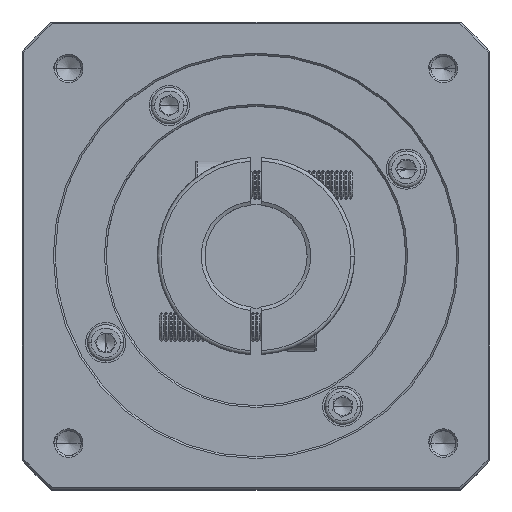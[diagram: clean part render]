
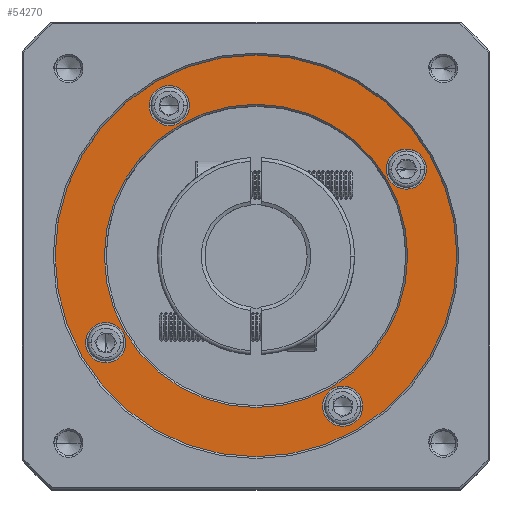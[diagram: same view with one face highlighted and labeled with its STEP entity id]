
A CAD part, top view. The second image highlights one B-rep face of the part: STEP entity #54270.
In plain terms, the highlighted planar face has unit normal (0, 0, 1).
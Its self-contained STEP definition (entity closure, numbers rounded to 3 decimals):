
#5131 = AXIS2_PLACEMENT_3D ( 'NONE', #12617, #78218, #22005 ) ;
#8604 = ORIENTED_EDGE ( 'NONE', *, *, #43318, .T. ) ;
#9205 = CARTESIAN_POINT ( 'NONE',  ( 32.231, 177.313, 47.529 ) ) ;
#11257 = EDGE_LOOP ( 'NONE', ( #78065, #8604 ) ) ;
#12617 = CARTESIAN_POINT ( 'NONE',  ( 55.981, 136.177, 47.529 ) ) ;
#13023 = EDGE_CURVE ( 'NONE', #31280, #51658, #117565, .T. ) ;
#13725 = ORIENTED_EDGE ( 'NONE', *, *, #112190, .T. ) ;
#13969 = AXIS2_PLACEMENT_3D ( 'NONE', #19710, #85333, #29157 ) ;
#16248 = VERTEX_POINT ( 'NONE', #60955 ) ;
#18590 = DIRECTION ( 'NONE',  ( 1., 0., 0. ) ) ;
#18922 = DIRECTION ( 'NONE',  ( 0., 0., -1. ) ) ;
#19510 = EDGE_CURVE ( 'NONE', #83587, #117281, #68773, .T. ) ;
#19710 = CARTESIAN_POINT ( 'NONE',  ( 97.118, 159.927, 47.529 ) ) ;
#20159 = AXIS2_PLACEMENT_3D ( 'NONE', #81480, #25269, #90901 ) ;
#20262 = CARTESIAN_POINT ( 'NONE',  ( 20.345, 112.427, 47.529 ) ) ;
#20818 = CARTESIAN_POINT ( 'NONE',  ( 97.118, 159.927, 47.529 ) ) ;
#20956 = CARTESIAN_POINT ( 'NONE',  ( 55.981, 136.177, 47.529 ) ) ;
#22005 = DIRECTION ( 'NONE',  ( 1., 0., 0. ) ) ;
#22145 = CIRCLE ( 'NONE', #72399, 5.5 ) ;
#22332 = CARTESIAN_POINT ( 'NONE',  ( 55.981, 136.177, 47.529 ) ) ;
#23481 = DIRECTION ( 'NONE',  ( 0., 0., -1. ) ) ;
#24683 = FACE_BOUND ( 'NONE', #118141, .T. ) ;
#25269 = DIRECTION ( 'NONE',  ( 0., 0., -1. ) ) ;
#25519 = ORIENTED_EDGE ( 'NONE', *, *, #13023, .T. ) ;
#25651 = AXIS2_PLACEMENT_3D ( 'NONE', #20956, #86602, #30420 ) ;
#25933 = ORIENTED_EDGE ( 'NONE', *, *, #19510, .T. ) ;
#27617 = FACE_BOUND ( 'NONE', #35966, .T. ) ;
#27796 = EDGE_CURVE ( 'NONE', #117281, #83587, #34374, .T. ) ;
#28719 = EDGE_CURVE ( 'NONE', #106339, #44645, #22145, .T. ) ;
#29157 = DIRECTION ( 'NONE',  ( 1., 0., 0. ) ) ;
#29814 = AXIS2_PLACEMENT_3D ( 'NONE', #75105, #18922, #84529 ) ;
#30259 = DIRECTION ( 'NONE',  ( 1., 0., 0. ) ) ;
#30420 = DIRECTION ( 'NONE',  ( 1., 0., 0. ) ) ;
#31280 = VERTEX_POINT ( 'NONE', #72317 ) ;
#31791 = DIRECTION ( 'NONE',  ( 1., 0., 0. ) ) ;
#34374 = CIRCLE ( 'NONE', #29814, 5.5 ) ;
#35147 = EDGE_CURVE ( 'NONE', #106231, #70989, #93487, .T. ) ;
#35966 = EDGE_LOOP ( 'NONE', ( #82396, #13725 ) ) ;
#36977 = CARTESIAN_POINT ( 'NONE',  ( 37.731, 177.313, 47.529 ) ) ;
#37480 = DIRECTION ( 'NONE',  ( 0., 0., 1. ) ) ;
#41187 = DIRECTION ( 'NONE',  ( 0., 0., -1. ) ) ;
#42142 = EDGE_CURVE ( 'NONE', #16248, #89566, #70620, .T. ) ;
#42306 = CIRCLE ( 'NONE', #13969, 5.5 ) ;
#42613 = CARTESIAN_POINT ( 'NONE',  ( 79.731, 95.041, 47.529 ) ) ;
#42792 = AXIS2_PLACEMENT_3D ( 'NONE', #20818, #86456, #30259 ) ;
#43318 = EDGE_CURVE ( 'NONE', #89566, #16248, #42306, .T. ) ;
#43527 = EDGE_LOOP ( 'NONE', ( #103452, #80237 ) ) ;
#44645 = VERTEX_POINT ( 'NONE', #80625 ) ;
#45373 = CARTESIAN_POINT ( 'NONE',  ( 14.845, 112.427, 47.529 ) ) ;
#46467 = PLANE ( 'NONE',  #98022 ) ;
#49550 = FACE_BOUND ( 'NONE', #43527, .T. ) ;
#51658 = VERTEX_POINT ( 'NONE', #120321 ) ;
#52055 = DIRECTION ( 'NONE',  ( 1., 0., 0. ) ) ;
#54270 = ADVANCED_FACE ( 'NONE', ( #74597, #27617, #77572, #99493, #49550, #24683 ), #46467, .T. ) ;
#54610 = ORIENTED_EDGE ( 'NONE', *, *, #27796, .T. ) ;
#54786 = DIRECTION ( 'NONE',  ( 1., 0., 0. ) ) ;
#55712 = ORIENTED_EDGE ( 'NONE', *, *, #72424, .T. ) ;
#58246 = CARTESIAN_POINT ( 'NONE',  ( 14.481, 136.177, 47.529 ) ) ;
#60955 = CARTESIAN_POINT ( 'NONE',  ( 102.618, 159.927, 47.529 ) ) ;
#61409 = CIRCLE ( 'NONE', #82932, 41.5 ) ;
#68006 = EDGE_LOOP ( 'NONE', ( #74204, #25519 ) ) ;
#68773 = CIRCLE ( 'NONE', #85389, 5.5 ) ;
#69611 = CIRCLE ( 'NONE', #102224, 55. ) ;
#70165 = CARTESIAN_POINT ( 'NONE',  ( 97.481, 136.177, 47.529 ) ) ;
#70620 = CIRCLE ( 'NONE', #42792, 5.5 ) ;
#70989 = VERTEX_POINT ( 'NONE', #73217 ) ;
#72317 = CARTESIAN_POINT ( 'NONE',  ( 0.981, 136.177, 47.529 ) ) ;
#72399 = AXIS2_PLACEMENT_3D ( 'NONE', #97373, #41187, #106800 ) ;
#72424 = EDGE_CURVE ( 'NONE', #70989, #106231, #96180, .T. ) ;
#73217 = CARTESIAN_POINT ( 'NONE',  ( 9.345, 112.427, 47.529 ) ) ;
#74204 = ORIENTED_EDGE ( 'NONE', *, *, #81539, .T. ) ;
#74597 = FACE_OUTER_BOUND ( 'NONE', #68006, .T. ) ;
#74789 = DIRECTION ( 'NONE',  ( 0., 0., -1. ) ) ;
#74798 = EDGE_LOOP ( 'NONE', ( #54610, #25933 ) ) ;
#75105 = CARTESIAN_POINT ( 'NONE',  ( 32.231, 177.313, 47.529 ) ) ;
#77572 = FACE_BOUND ( 'NONE', #11257, .T. ) ;
#78065 = ORIENTED_EDGE ( 'NONE', *, *, #42142, .T. ) ;
#78218 = DIRECTION ( 'NONE',  ( 0., 0., 1. ) ) ;
#79693 = CARTESIAN_POINT ( 'NONE',  ( 55.981, 136.177, 47.529 ) ) ;
#80237 = ORIENTED_EDGE ( 'NONE', *, *, #111095, .T. ) ;
#80625 = CARTESIAN_POINT ( 'NONE',  ( 74.231, 95.041, 47.529 ) ) ;
#81480 = CARTESIAN_POINT ( 'NONE',  ( 14.845, 112.427, 47.529 ) ) ;
#81539 = EDGE_CURVE ( 'NONE', #51658, #31280, #69611, .T. ) ;
#82396 = ORIENTED_EDGE ( 'NONE', *, *, #90734, .T. ) ;
#82932 = AXIS2_PLACEMENT_3D ( 'NONE', #79693, #23481, #89102 ) ;
#83091 = VERTEX_POINT ( 'NONE', #58246 ) ;
#83587 = VERTEX_POINT ( 'NONE', #115132 ) ;
#84529 = DIRECTION ( 'NONE',  ( 1., 0., 0. ) ) ;
#85333 = DIRECTION ( 'NONE',  ( 0., 0., -1. ) ) ;
#85389 = AXIS2_PLACEMENT_3D ( 'NONE', #9205, #74789, #18590 ) ;
#86456 = DIRECTION ( 'NONE',  ( 0., 0., -1. ) ) ;
#86602 = DIRECTION ( 'NONE',  ( 0., 0., -1. ) ) ;
#86875 = CIRCLE ( 'NONE', #115745, 5.5 ) ;
#87123 = CARTESIAN_POINT ( 'NONE',  ( 85.231, 95.041, 47.529 ) ) ;
#87974 = DIRECTION ( 'NONE',  ( 0., 0., 1. ) ) ;
#89102 = DIRECTION ( 'NONE',  ( 1., 0., 0. ) ) ;
#89566 = VERTEX_POINT ( 'NONE', #101264 ) ;
#90734 = EDGE_CURVE ( 'NONE', #94967, #83091, #106167, .T. ) ;
#90901 = DIRECTION ( 'NONE',  ( 1., 0., 0. ) ) ;
#93487 = CIRCLE ( 'NONE', #98544, 5.5 ) ;
#93672 = CARTESIAN_POINT ( 'NONE',  ( 55.981, 136.177, 47.529 ) ) ;
#94967 = VERTEX_POINT ( 'NONE', #70165 ) ;
#96180 = CIRCLE ( 'NONE', #20159, 5.5 ) ;
#97373 = CARTESIAN_POINT ( 'NONE',  ( 79.731, 95.041, 47.529 ) ) ;
#98022 = AXIS2_PLACEMENT_3D ( 'NONE', #93672, #37480, #103057 ) ;
#98544 = AXIS2_PLACEMENT_3D ( 'NONE', #45373, #111001, #54786 ) ;
#98574 = ORIENTED_EDGE ( 'NONE', *, *, #35147, .T. ) ;
#99493 = FACE_BOUND ( 'NONE', #74798, .T. ) ;
#101264 = CARTESIAN_POINT ( 'NONE',  ( 91.618, 159.927, 47.529 ) ) ;
#102224 = AXIS2_PLACEMENT_3D ( 'NONE', #22332, #87974, #31791 ) ;
#103057 = DIRECTION ( 'NONE',  ( 1., 0., 0. ) ) ;
#103452 = ORIENTED_EDGE ( 'NONE', *, *, #28719, .T. ) ;
#106167 = CIRCLE ( 'NONE', #25651, 41.5 ) ;
#106231 = VERTEX_POINT ( 'NONE', #20262 ) ;
#106339 = VERTEX_POINT ( 'NONE', #87123 ) ;
#106800 = DIRECTION ( 'NONE',  ( 1., 0., 0. ) ) ;
#108268 = DIRECTION ( 'NONE',  ( 0., 0., -1. ) ) ;
#111001 = DIRECTION ( 'NONE',  ( 0., 0., -1. ) ) ;
#111095 = EDGE_CURVE ( 'NONE', #44645, #106339, #86875, .T. ) ;
#112190 = EDGE_CURVE ( 'NONE', #83091, #94967, #61409, .T. ) ;
#115132 = CARTESIAN_POINT ( 'NONE',  ( 26.731, 177.313, 47.529 ) ) ;
#115745 = AXIS2_PLACEMENT_3D ( 'NONE', #42613, #108268, #52055 ) ;
#117281 = VERTEX_POINT ( 'NONE', #36977 ) ;
#117565 = CIRCLE ( 'NONE', #5131, 55. ) ;
#118141 = EDGE_LOOP ( 'NONE', ( #98574, #55712 ) ) ;
#120321 = CARTESIAN_POINT ( 'NONE',  ( 110.981, 136.177, 47.529 ) ) ;
